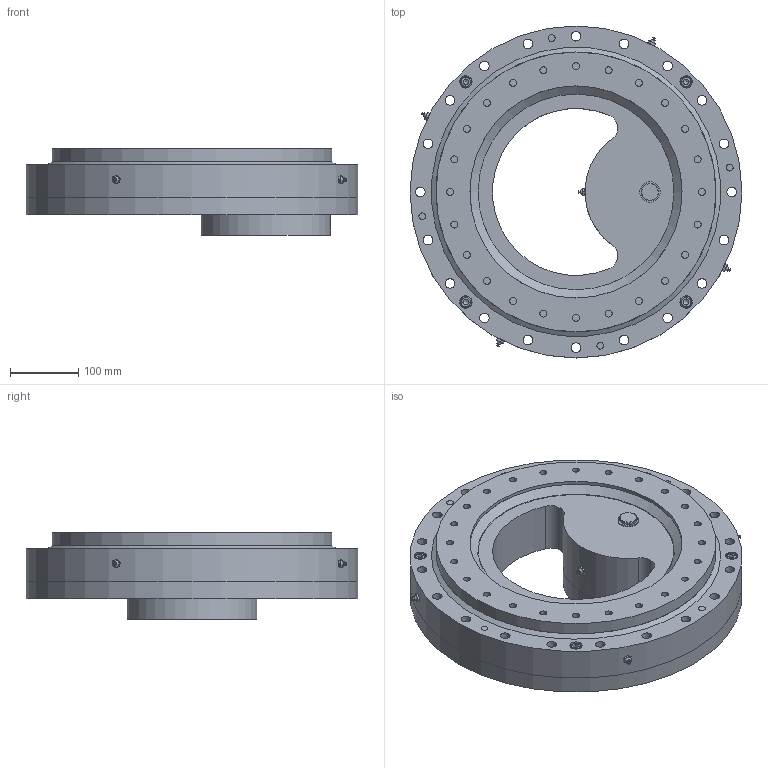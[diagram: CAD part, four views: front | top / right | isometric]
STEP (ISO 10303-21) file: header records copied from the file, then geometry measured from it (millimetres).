
FILE_DESCRIPTION(/* description */ ('STEP AP214'),/* implementation_level */ '2;1');
FILE_NAME(/* name */ '\\Serwer-ad\dnia$\dnia_tomasz_tb\Desktop\Tomcio\1. Cenniki + katalogi + materiały\U- Transmission\Katalogi 2023\Wersja NATECH DRV\Inner gear - slew drive\Our inner gear slew drive STEP\PT-M-0411-I-B-S.stp',/* time_stamp */ '2024-04-30T10:30:33+02:00',/* author */ ('dnia_tomasz_tb'),/* organization */ (''),/* preprocessor_version */ 'ST-DEVELOPER v19',/* originating_system */ 'Autodesk Inventor 2023',/* authorisation */ '');
FILE_SCHEMA (('AUTOMOTIVE_DESIGN { 1 0 10303 214 3 1 1 }'));
Length unit declared in the file: millimetre
Products named in the file (1): PT-M-0411-I-B-S
Bounding box: 485 x 485 x 126 mm (x, y, z)
Surface area: 813507.8 mm2 (no closed solid volume)
Topology: 0 solids, 45 shells, 356 faces, 1252 edges, 868 vertices
Faces by surface type: plane 184, cylinder 109, cone 25, torus 22, sphere 16
Full cylindrical faces by diameter (mm): 2 x5, 8.5 x8, 10 x1, 10.2 x24, 14 x20, 16 x20, 18 x12, 26 x1, 30 x1, 65 x1, 80 x1, 88.333 x1, 130 x1, 190 x1, 310 x1, 409 x1, 485 x2
Entity records: 17014 total; most frequent: CARTESIAN_POINT 5474, DIRECTION 2442, ORIENTED_EDGE 1909, EDGE_CURVE 1208, AXIS2_PLACEMENT_3D 959, VERTEX_POINT 868, CIRCLE 602, EDGE_LOOP 574
